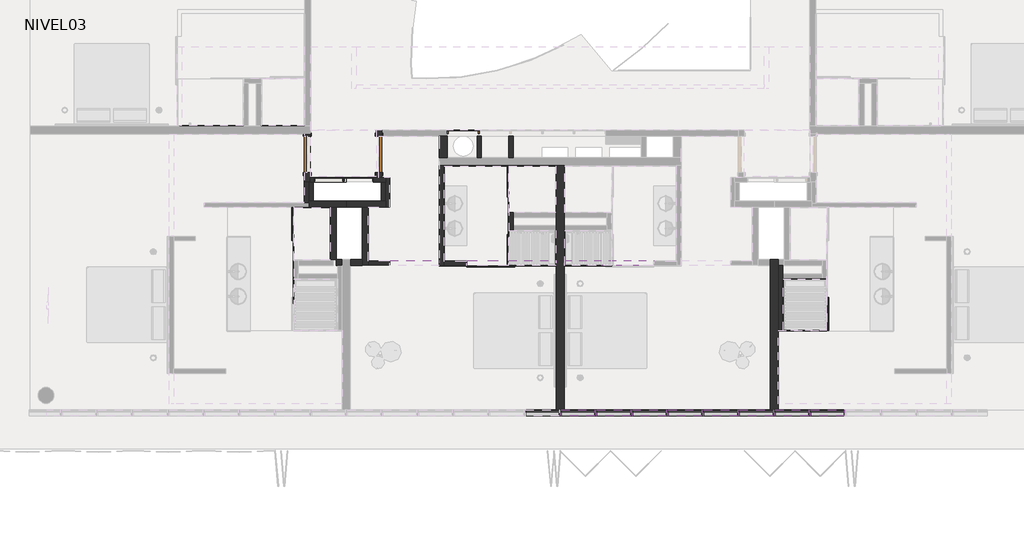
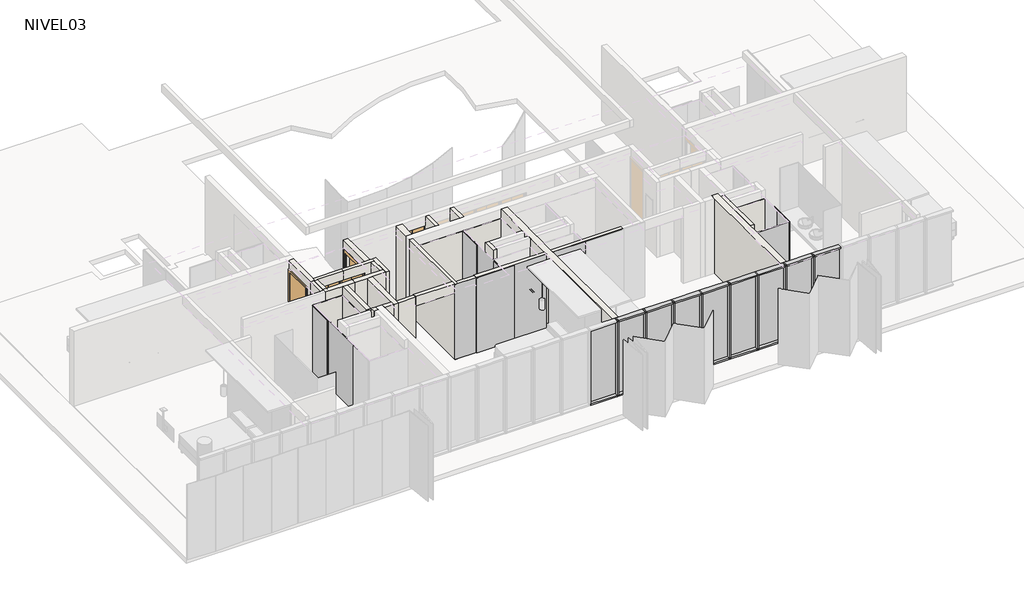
# One storey, part 2 of 8: 38 walls, 25 members, 20 plates, 5 doors.
"""IFC4 building model written with IfcOpenShell, lengths in millimetres."""

from ifc_helpers import new_model, si_unit, frame, origin, place, context, project, spatial, polyline, outline, extrude, faceted_brep, transform, mapped, element, save
from components import m_single_flush_910x_224_a4f79d59, m_single_flush_910x_224_d199ccfa, puerta_closet_shaft_75_x_232cm_9b8c6cb1, puerta_closet_shaft_75_x_232cm_f7ce9964, puerta_closet_shaft_80_x_232cm_003f94e8, rectangular_mullion_50_x_150mm_324a6438, rectangular_mullion_50_x_150mm_33c2bde1, panel_corredera_cr_panel_corredera_e449a94a, panel_corredera_cr_panel_corredera_4796692a, panel_corredera_cr_panel_corredera_42e60b83, panel_corredera_cr_panel_corredera_db6cee18, panel_corredera_cr_panel_corredera_0b5135b5, system_panel_cr_shower_b944c943, system_panel_cr_shower_306accba, system_panel_cr_shower_91ed7f58, system_panel_cr_shower_c062e60c, system_panel_cr_shower_685ec66b, system_panel_cr_shower_d0c7b907, system_panel_glazed_6ccc6dc1

model = new_model("IFC4")

# Units and contexts
model_context = context("Model", 3, world=origin())
ifc_project = project(units=[si_unit("LENGTHUNIT", "METRE", prefix="MILLI")], contexts=[model_context])

# Site, building, storey
site = spatial("IfcSite", under=ifc_project)
building = spatial("IfcBuilding", under=site)
storey = spatial("IfcBuildingStorey", under=building, Name="NIVEL03", Elevation=5220.0)

# Doors
placement = place(None, origin())
m_single_flush_910x_224_shape = m_single_flush_910x_224_a4f79d59(model_context)
element("IfcDoor", 1, ObjectType="M_Single-Flush : 910x 224", at=placement, inside=storey, context=model_context, shape_type="MappedRepresentation", body=[
    mapped(m_single_flush_910x_224_shape, transform((-13568.5934748, -883.5860759, 5220.0), x_axis=(0.0, 1.0, 0.0), y_axis=(-1.0, 0.0, 0.0), z_axis=(0.0, 0.0, 1.0))),
])
m_single_flush_910x_224_2_shape = m_single_flush_910x_224_d199ccfa(model_context)
element("IfcDoor", 2, ObjectType="M_Single-Flush : 910x 224", at=placement, inside=storey, context=model_context, shape_type="MappedRepresentation", body=[
    mapped(m_single_flush_910x_224_2_shape, transform((-11758.5934748, -883.5860759, 5220.0), x_axis=(0.0, 1.0, 0.0), y_axis=(-1.0, 0.0, 0.0), z_axis=(0.0, 0.0, 1.0))),
])
puerta_closet_shaft_75_x_232cm_shape = puerta_closet_shaft_75_x_232cm_9b8c6cb1(model_context)
element("IfcDoor", 3, ObjectType="PUERTA CLOSET SHAFT : 75 x 232cm", at=placement, inside=storey, context=model_context, shape_type="MappedRepresentation", body=[
    mapped(puerta_closet_shaft_75_x_232cm_shape, transform((-11887.061904, -1521.0860759, 5220.0), x_axis=(1.0, 0.0, 0.0), y_axis=(0.0, 1.0, 0.0), z_axis=(0.0, 0.0, 1.0))),
])
puerta_closet_shaft_75_x_232cm_2_shape = puerta_closet_shaft_75_x_232cm_f7ce9964(model_context)
element("IfcDoor", 4, ObjectType="PUERTA CLOSET SHAFT : 75 x 232cm", at=placement, inside=storey, context=model_context, shape_type="MappedRepresentation", body=[
    mapped(puerta_closet_shaft_75_x_232cm_2_shape, transform((-13420.1250457, -1521.0860759, 5220.0), x_axis=(-1.0, 0.0, 0.0), y_axis=(0.0, -1.0, 0.0), z_axis=(0.0, 0.0, 1.0))),
])
puerta_closet_shaft_80_x_232cm_shape = puerta_closet_shaft_80_x_232cm_003f94e8(model_context)
element("IfcDoor", 5, ObjectType="PUERTA CLOSET SHAFT : 80 x 232cm", at=placement, inside=storey, context=model_context, shape_type="MappedRepresentation", body=[
    mapped(puerta_closet_shaft_80_x_232cm_shape, transform((-8492.061904, -341.0860759, 5220.0), x_axis=(1.0, 0.0, 0.0), y_axis=(0.0, 1.0, 0.0), z_axis=(0.0, 0.0, 1.0))),
])

# Members
rectangular_mullion_50_x_150mm_shape = rectangular_mullion_50_x_150mm_324a6438(model_context)
element("IfcMember", 6, ObjectType="Rectangular Mullion : 50 x 150mm", at=placement, inside=storey, context=model_context, shape_type="MappedRepresentation", body=[
    mapped(rectangular_mullion_50_x_150mm_shape, transform((-858.5934748, -7416.0860759, 7770.0), x_axis=(0.0, 0.0, 1.0), y_axis=(0.0, 1.0, 0.0), z_axis=(-1.0, 0.0, 0.0))),
])
element("IfcMember", 7, ObjectType="Rectangular Mullion : 50 x 150mm", at=placement, inside=storey, context=model_context, shape_type="MappedRepresentation", body=[
    mapped(rectangular_mullion_50_x_150mm_shape, transform((-1758.5934748, -7416.0860759, 7770.0), x_axis=(0.0, 0.0, 1.0), y_axis=(0.0, 1.0, 0.0), z_axis=(-1.0, 0.0, 0.0))),
])
element("IfcMember", 8, ObjectType="Rectangular Mullion : 50 x 150mm", at=placement, inside=storey, context=model_context, shape_type="MappedRepresentation", body=[
    mapped(rectangular_mullion_50_x_150mm_shape, transform((-2658.5934748, -7416.0860759, 7770.0), x_axis=(0.0, 0.0, 1.0), y_axis=(0.0, 1.0, 0.0), z_axis=(-1.0, 0.0, 0.0))),
])
element("IfcMember", 9, ObjectType="Rectangular Mullion : 50 x 150mm", at=placement, inside=storey, context=model_context, shape_type="MappedRepresentation", body=[
    mapped(rectangular_mullion_50_x_150mm_shape, transform((-3558.5934748, -7416.0860759, 7770.0), x_axis=(0.0, 0.0, 1.0), y_axis=(0.0, 1.0, 0.0), z_axis=(-1.0, 0.0, 0.0))),
])
element("IfcMember", 10, ObjectType="Rectangular Mullion : 50 x 150mm", at=placement, inside=storey, context=model_context, shape_type="MappedRepresentation", body=[
    mapped(rectangular_mullion_50_x_150mm_shape, transform((-4458.5934748, -7416.0860759, 7770.0), x_axis=(0.0, 0.0, 1.0), y_axis=(0.0, 1.0, 0.0), z_axis=(-1.0, 0.0, 0.0))),
])
element("IfcMember", 11, ObjectType="Rectangular Mullion : 50 x 150mm", at=placement, inside=storey, context=model_context, shape_type="MappedRepresentation", body=[
    mapped(rectangular_mullion_50_x_150mm_shape, transform((-5358.5934748, -7416.0860759, 7770.0), x_axis=(0.0, 0.0, 1.0), y_axis=(0.0, 1.0, 0.0), z_axis=(-1.0, 0.0, 0.0))),
])
element("IfcMember", 12, ObjectType="Rectangular Mullion : 50 x 150mm", at=placement, inside=storey, context=model_context, shape_type="MappedRepresentation", body=[
    mapped(rectangular_mullion_50_x_150mm_shape, transform((-6258.5934748, -7416.0860759, 7770.0), x_axis=(0.0, 0.0, 1.0), y_axis=(0.0, 1.0, 0.0), z_axis=(-1.0, 0.0, 0.0))),
])
element("IfcMember", 13, ObjectType="Rectangular Mullion : 50 x 150mm", at=placement, inside=storey, context=model_context, shape_type="MappedRepresentation", body=[
    mapped(rectangular_mullion_50_x_150mm_shape, transform((-7158.5934748, -7416.0860759, 7770.0), x_axis=(0.0, 0.0, 1.0), y_axis=(0.0, 1.0, 0.0), z_axis=(-1.0, 0.0, 0.0))),
])
element("IfcMember", 14, ObjectType="Rectangular Mullion : 50 x 150mm", at=placement, inside=storey, context=model_context, shape_type="MappedRepresentation", body=[
    mapped(rectangular_mullion_50_x_150mm_shape, transform((-8.5934748, -7416.0860759, 5200.0), x_axis=(0.0, 0.0, -1.0), y_axis=(0.0, 1.0, 0.0), z_axis=(1.0, 0.0, 0.0))),
])
element("IfcMember", 15, ObjectType="Rectangular Mullion : 50 x 150mm", at=placement, inside=storey, context=model_context, shape_type="MappedRepresentation", body=[
    mapped(rectangular_mullion_50_x_150mm_shape, transform((-908.5934748, -7416.0860759, 5200.0), x_axis=(0.0, 0.0, -1.0), y_axis=(0.0, 1.0, 0.0), z_axis=(1.0, 0.0, 0.0))),
])
element("IfcMember", 16, ObjectType="Rectangular Mullion : 50 x 150mm", at=placement, inside=storey, context=model_context, shape_type="MappedRepresentation", body=[
    mapped(rectangular_mullion_50_x_150mm_shape, transform((-1808.5934748, -7416.0860759, 5200.0), x_axis=(0.0, 0.0, -1.0), y_axis=(0.0, 1.0, 0.0), z_axis=(1.0, 0.0, 0.0))),
])
element("IfcMember", 17, ObjectType="Rectangular Mullion : 50 x 150mm", at=placement, inside=storey, context=model_context, shape_type="MappedRepresentation", body=[
    mapped(rectangular_mullion_50_x_150mm_shape, transform((-2708.5934748, -7416.0860759, 5200.0), x_axis=(0.0, 0.0, -1.0), y_axis=(0.0, 1.0, 0.0), z_axis=(1.0, 0.0, 0.0))),
])
element("IfcMember", 18, ObjectType="Rectangular Mullion : 50 x 150mm", at=placement, inside=storey, context=model_context, shape_type="MappedRepresentation", body=[
    mapped(rectangular_mullion_50_x_150mm_shape, transform((-3608.5934748, -7416.0860759, 5200.0), x_axis=(0.0, 0.0, -1.0), y_axis=(0.0, 1.0, 0.0), z_axis=(1.0, 0.0, 0.0))),
])
element("IfcMember", 19, ObjectType="Rectangular Mullion : 50 x 150mm", at=placement, inside=storey, context=model_context, shape_type="MappedRepresentation", body=[
    mapped(rectangular_mullion_50_x_150mm_shape, transform((-4508.5934748, -7416.0860759, 5200.0), x_axis=(0.0, 0.0, -1.0), y_axis=(0.0, 1.0, 0.0), z_axis=(1.0, 0.0, 0.0))),
])
element("IfcMember", 20, ObjectType="Rectangular Mullion : 50 x 150mm", at=placement, inside=storey, context=model_context, shape_type="MappedRepresentation", body=[
    mapped(rectangular_mullion_50_x_150mm_shape, transform((-5408.5934748, -7416.0860759, 5200.0), x_axis=(0.0, 0.0, -1.0), y_axis=(0.0, 1.0, 0.0), z_axis=(1.0, 0.0, 0.0))),
])
element("IfcMember", 21, ObjectType="Rectangular Mullion : 50 x 150mm", at=placement, inside=storey, context=model_context, shape_type="MappedRepresentation", body=[
    mapped(rectangular_mullion_50_x_150mm_shape, transform((-6308.5934748, -7416.0860759, 5200.0), x_axis=(0.0, 0.0, -1.0), y_axis=(0.0, 1.0, 0.0), z_axis=(1.0, 0.0, 0.0))),
])
element("IfcMember", 22, ObjectType="Rectangular Mullion : 50 x 150mm", at=placement, inside=storey, context=model_context, shape_type="MappedRepresentation", body=[
    mapped(rectangular_mullion_50_x_150mm_shape, transform((-7208.5934748, -7416.0860759, 5200.0), x_axis=(0.0, 0.0, -1.0), y_axis=(0.0, 1.0, 0.0), z_axis=(1.0, 0.0, 0.0))),
])
rectangular_mullion_50_x_150mm_2_shape = rectangular_mullion_50_x_150mm_33c2bde1(model_context)
element("IfcMember", 23, ObjectType="Rectangular Mullion : 50 x 150mm", at=placement, inside=storey, context=model_context, shape_type="MappedRepresentation", body=[
    mapped(rectangular_mullion_50_x_150mm_2_shape, transform((-883.5934748, -7416.0860759, 5200.0), x_axis=(-1.0, 0.0, 0.0), y_axis=(0.0, 1.0, 0.0), z_axis=(0.0, 0.0, -1.0))),
])
element("IfcMember", 24, ObjectType="Rectangular Mullion : 50 x 150mm", at=placement, inside=storey, context=model_context, shape_type="MappedRepresentation", body=[
    mapped(rectangular_mullion_50_x_150mm_2_shape, transform((-1783.5934748, -7416.0860759, 5200.0), x_axis=(-1.0, 0.0, 0.0), y_axis=(0.0, 1.0, 0.0), z_axis=(0.0, 0.0, -1.0))),
])
element("IfcMember", 25, ObjectType="Rectangular Mullion : 50 x 150mm", at=placement, inside=storey, context=model_context, shape_type="MappedRepresentation", body=[
    mapped(rectangular_mullion_50_x_150mm_2_shape, transform((-2683.5934748, -7416.0860759, 5200.0), x_axis=(-1.0, 0.0, 0.0), y_axis=(0.0, 1.0, 0.0), z_axis=(0.0, 0.0, -1.0))),
])
element("IfcMember", 26, ObjectType="Rectangular Mullion : 50 x 150mm", at=placement, inside=storey, context=model_context, shape_type="MappedRepresentation", body=[
    mapped(rectangular_mullion_50_x_150mm_2_shape, transform((-3583.5934748, -7416.0860759, 5200.0), x_axis=(-1.0, 0.0, 0.0), y_axis=(0.0, 1.0, 0.0), z_axis=(0.0, 0.0, -1.0))),
])
element("IfcMember", 27, ObjectType="Rectangular Mullion : 50 x 150mm", at=placement, inside=storey, context=model_context, shape_type="MappedRepresentation", body=[
    mapped(rectangular_mullion_50_x_150mm_2_shape, transform((-4483.5934748, -7416.0860759, 5200.0), x_axis=(-1.0, 0.0, 0.0), y_axis=(0.0, 1.0, 0.0), z_axis=(0.0, 0.0, -1.0))),
])
element("IfcMember", 28, ObjectType="Rectangular Mullion : 50 x 150mm", at=placement, inside=storey, context=model_context, shape_type="MappedRepresentation", body=[
    mapped(rectangular_mullion_50_x_150mm_2_shape, transform((-5383.5934748, -7416.0860759, 5200.0), x_axis=(-1.0, 0.0, 0.0), y_axis=(0.0, 1.0, 0.0), z_axis=(0.0, 0.0, -1.0))),
])
element("IfcMember", 29, ObjectType="Rectangular Mullion : 50 x 150mm", at=placement, inside=storey, context=model_context, shape_type="MappedRepresentation", body=[
    mapped(rectangular_mullion_50_x_150mm_2_shape, transform((-6283.5934748, -7416.0860759, 5200.0), x_axis=(-1.0, 0.0, 0.0), y_axis=(0.0, 1.0, 0.0), z_axis=(0.0, 0.0, -1.0))),
])
element("IfcMember", 30, ObjectType="Rectangular Mullion : 50 x 150mm", at=placement, inside=storey, context=model_context, shape_type="MappedRepresentation", body=[
    mapped(rectangular_mullion_50_x_150mm_2_shape, transform((-7183.5934748, -7416.0860759, 5200.0), x_axis=(-1.0, 0.0, 0.0), y_axis=(0.0, 1.0, 0.0), z_axis=(0.0, 0.0, -1.0))),
])

# Plates
panel_corredera_cr_panel_corredera_shape = panel_corredera_cr_panel_corredera_e449a94a(model_context)
element("IfcPlate", 31, ObjectType="PANEL CORREDERA : CR_PANEL CORREDERA", at=placement, inside=storey, context=model_context, shape_type="MappedRepresentation", body=[
    mapped(panel_corredera_cr_panel_corredera_shape, transform((-13913.6434748, -2560.8259695, 5220.0), x_axis=(0.0, -1.0, 0.0), y_axis=(1.0, 0.0, 0.0), z_axis=(0.0, 0.0, 1.0))),
])
panel_corredera_cr_panel_corredera_2_shape = panel_corredera_cr_panel_corredera_4796692a(model_context)
element("IfcPlate", 32, ObjectType="PANEL CORREDERA : CR_PANEL CORREDERA", at=placement, inside=storey, context=model_context, shape_type="MappedRepresentation", body=[
    mapped(panel_corredera_cr_panel_corredera_2_shape, transform((-8483.5947993, -3371.0862189, 5220.0), x_axis=(0.0, 1.0, 0.0), y_axis=(-1.0, 0.0, 0.0), z_axis=(0.0, 0.0, 1.0))),
])
panel_corredera_cr_panel_corredera_3_shape = panel_corredera_cr_panel_corredera_42e60b83(model_context)
element("IfcPlate", 33, ObjectType="PANEL CORREDERA : CR_PANEL CORREDERA", at=placement, inside=storey, context=model_context, shape_type="MappedRepresentation", body=[
    mapped(panel_corredera_cr_panel_corredera_3_shape, transform((-453.5434748, -4991.5697221, 5220.0), x_axis=(0.0, 1.0, 0.0), y_axis=(-1.0, 0.0, 0.0), z_axis=(0.0, 0.0, 1.0))),
])
panel_corredera_cr_panel_corredera_4_shape = panel_corredera_cr_panel_corredera_db6cee18(model_context)
element("IfcPlate", 34, ObjectType="PANEL CORREDERA : CR_PANEL CORREDERA", at=placement, inside=storey, context=model_context, shape_type="MappedRepresentation", body=[
    mapped(panel_corredera_cr_panel_corredera_4_shape, transform((-8483.5947993, -1491.0860759, 5220.0), x_axis=(0.0, -1.0, 0.0), y_axis=(1.0, 0.0, 0.0), z_axis=(0.0, 0.0, 1.0))),
])
panel_corredera_cr_panel_corredera_5_shape = panel_corredera_cr_panel_corredera_0b5135b5(model_context)
element("IfcPlate", 35, ObjectType="PANEL CORREDERA : CR_PANEL CORREDERA", at=placement, inside=storey, context=model_context, shape_type="MappedRepresentation", body=[
    mapped(panel_corredera_cr_panel_corredera_5_shape, transform((-9013.5934748, -3686.0862189, 5220.0), x_axis=(1.0, 0.0, 0.0), y_axis=(0.0, 1.0, 0.0), z_axis=(0.0, 0.0, 1.0))),
])
system_panel_cr_shower_shape = system_panel_cr_shower_b944c943(model_context)
element("IfcPlate", 36, ObjectType="System Panel : CR-SHOWER", at=placement, inside=storey, context=model_context, shape_type="MappedRepresentation", body=[
    mapped(system_panel_cr_shower_shape, transform((-1068.5684748, -5336.1362189, 5220.0), x_axis=(1.0, 0.0, 0.0), y_axis=(0.0, 1.0, 0.0), z_axis=(0.0, 0.0, 1.0))),
])
system_panel_cr_shower_2_shape = system_panel_cr_shower_306accba(model_context)
element("IfcPlate", 37, ObjectType="System Panel : CR-SHOWER", at=placement, inside=storey, context=model_context, shape_type="MappedRepresentation", body=[
    mapped(system_panel_cr_shower_2_shape, transform((-9888.5934748, -3686.0862189, 5220.0), x_axis=(-1.0, 0.0, 0.0), y_axis=(0.0, -1.0, 0.0), z_axis=(0.0, 0.0, 1.0))),
])
system_panel_cr_shower_3_shape = system_panel_cr_shower_91ed7f58(model_context)
element("IfcPlate", 38, ObjectType="System Panel : CR-SHOWER", at=placement, inside=storey, context=model_context, shape_type="MappedRepresentation", body=[
    mapped(system_panel_cr_shower_3_shape, transform((-13913.6434748, -3776.2845441, 5220.0), x_axis=(0.0, 1.0, 0.0), y_axis=(-1.0, 0.0, 0.0), z_axis=(0.0, 0.0, 1.0))),
])
system_panel_cr_shower_4_shape = system_panel_cr_shower_c062e60c(model_context)
element("IfcPlate", 39, ObjectType="System Panel : CR-SHOWER", at=placement, inside=storey, context=model_context, shape_type="MappedRepresentation", body=[
    mapped(system_panel_cr_shower_4_shape, transform((-8483.5947993, -2436.0861474, 5220.0), x_axis=(0.0, 1.0, 0.0), y_axis=(-1.0, 0.0, 0.0), z_axis=(0.0, 0.0, 1.0))),
])
system_panel_cr_shower_5_shape = system_panel_cr_shower_685ec66b(model_context)
element("IfcPlate", 40, ObjectType="System Panel : CR-SHOWER", at=placement, inside=storey, context=model_context, shape_type="MappedRepresentation", body=[
    mapped(system_panel_cr_shower_5_shape, transform((-6483.5934748, -3686.0862189, 5220.0), x_axis=(1.0, 0.0, 0.0), y_axis=(0.0, 1.0, 0.0), z_axis=(0.0, 0.0, 1.0))),
])
system_panel_cr_shower_6_shape = system_panel_cr_shower_d0c7b907(model_context)
element("IfcPlate", 41, ObjectType="System Panel : CR-SHOWER", at=placement, inside=storey, context=model_context, shape_type="MappedRepresentation", body=[
    mapped(system_panel_cr_shower_6_shape, transform((-7883.5934748, -3686.0862189, 5220.0), x_axis=(-1.0, 0.0, 0.0), y_axis=(0.0, -1.0, 0.0), z_axis=(0.0, 0.0, 1.0))),
])
system_panel_glazed_shape = system_panel_glazed_6ccc6dc1(model_context)
element("IfcPlate", 42, ObjectType="System Panel : Glazed", at=placement, inside=storey, context=model_context, shape_type="MappedRepresentation", body=[
    mapped(system_panel_glazed_shape, transform((-433.5934748, -7416.0860759, 5250.0), x_axis=(-1.0, 0.0, 0.0), y_axis=(0.0, -1.0, 0.0), z_axis=(0.0, 0.0, 1.0))),
])
element("IfcPlate", 43, ObjectType="System Panel : Glazed", at=placement, inside=storey, context=model_context, shape_type="MappedRepresentation", body=[
    mapped(system_panel_glazed_shape, transform((-1333.5934748, -7416.0860759, 5250.0), x_axis=(-1.0, 0.0, 0.0), y_axis=(0.0, -1.0, 0.0), z_axis=(0.0, 0.0, 1.0))),
])
element("IfcPlate", 44, ObjectType="System Panel : Glazed", at=placement, inside=storey, context=model_context, shape_type="MappedRepresentation", body=[
    mapped(system_panel_glazed_shape, transform((-2233.5934748, -7416.0860759, 5250.0), x_axis=(-1.0, 0.0, 0.0), y_axis=(0.0, -1.0, 0.0), z_axis=(0.0, 0.0, 1.0))),
])
element("IfcPlate", 45, ObjectType="System Panel : Glazed", at=placement, inside=storey, context=model_context, shape_type="MappedRepresentation", body=[
    mapped(system_panel_glazed_shape, transform((-3133.5934748, -7416.0860759, 5250.0), x_axis=(-1.0, 0.0, 0.0), y_axis=(0.0, -1.0, 0.0), z_axis=(0.0, 0.0, 1.0))),
])
element("IfcPlate", 46, ObjectType="System Panel : Glazed", at=placement, inside=storey, context=model_context, shape_type="MappedRepresentation", body=[
    mapped(system_panel_glazed_shape, transform((-4033.5934748, -7416.0860759, 5250.0), x_axis=(-1.0, 0.0, 0.0), y_axis=(0.0, -1.0, 0.0), z_axis=(0.0, 0.0, 1.0))),
])
element("IfcPlate", 47, ObjectType="System Panel : Glazed", at=placement, inside=storey, context=model_context, shape_type="MappedRepresentation", body=[
    mapped(system_panel_glazed_shape, transform((-4933.5934748, -7416.0860759, 5250.0), x_axis=(-1.0, 0.0, 0.0), y_axis=(0.0, -1.0, 0.0), z_axis=(0.0, 0.0, 1.0))),
])
element("IfcPlate", 48, ObjectType="System Panel : Glazed", at=placement, inside=storey, context=model_context, shape_type="MappedRepresentation", body=[
    mapped(system_panel_glazed_shape, transform((-5833.5934748, -7416.0860759, 5250.0), x_axis=(-1.0, 0.0, 0.0), y_axis=(0.0, -1.0, 0.0), z_axis=(0.0, 0.0, 1.0))),
])
element("IfcPlate", 49, ObjectType="System Panel : Glazed", at=placement, inside=storey, context=model_context, shape_type="MappedRepresentation", body=[
    mapped(system_panel_glazed_shape, transform((-6733.5934748, -7416.0860759, 5250.0), x_axis=(-1.0, 0.0, 0.0), y_axis=(0.0, -1.0, 0.0), z_axis=(0.0, 0.0, 1.0))),
])
element("IfcPlate", 50, ObjectType="System Panel : Glazed", at=placement, inside=storey, context=model_context, shape_type="MappedRepresentation", body=[
    mapped(system_panel_glazed_shape, transform((-7633.5934748, -7416.0860759, 5250.0), x_axis=(-1.0, 0.0, 0.0), y_axis=(0.0, -1.0, 0.0), z_axis=(0.0, 0.0, 1.0))),
])

# Walls
element("IfcWall", 51, ObjectType="SCV.TI.A.110.090.143.47.1", at=placement, inside=storey, context=model_context, shape_type="SweptSolid", body=[
    extrude(outline(polyline([(-9283.5934748, -966.0860759), (-9283.5934748, -416.0860759), (-9173.5934748, -416.0860759), (-9173.5934748, -966.0860759), (-9283.5934748, -966.0860759)])), frame((0.0, 0.0, 5200.0), z_axis=(0.0, 0.0, 1.0), x_axis=(1.0, 0.0, 0.0)), (0.0, 0.0, 1.0), 2570.0),
])
element("IfcWall", 52, ObjectType="REV-PORCELANATO_60*60", at=placement, inside=storey, context=model_context, shape_type="SweptSolid", body=[
    extrude(outline(polyline([(-7083.5934748, -3686.0862189), (-7083.5934748, -2806.0860759), (-7073.5934748, -2806.0860759), (-7073.5934748, -3686.0862189), (-7083.5934748, -3686.0862189)])), frame((0.0, 0.0, 5220.0), z_axis=(0.0, 0.0, 1.0), x_axis=(1.0, 0.0, 0.0)), (0.0, 0.0, 1.0), 2240.0),
])
element("IfcWall", 53, ObjectType="SCV.TI.A.110.090.143.47.1", at=placement, inside=storey, context=model_context, shape_type="SweptSolid", body=[
    extrude(outline(polyline([(-12033.5934748, -3571.0862189), (-11483.5934748, -3571.0862189), (-11483.5934748, -3681.0862189), (-12033.5934748, -3681.0862189), (-12033.5934748, -3571.0862189)])), frame((0.0, 0.0, 5220.0), z_axis=(0.0, 0.0, 1.0), x_axis=(1.0, 0.0, 0.0)), (0.0, 0.0, 1.0), 2550.0),
])
element("IfcWall", 54, ObjectType="SCV.TI.A.110.090.143.47.1", at=placement, inside=storey, context=model_context, shape_type="Brep", body=[
    faceted_brep([(-12589.1569667, -1466.0860759, 7770.0), (-11833.5934748, -1466.0860759, 7770.0), (-11683.5934748, -1466.0860759, 7770.0), (-11593.5934748, -1466.0860759, 7770.0), (-11593.5934748, -1466.0860759, 5220.0), (-11683.5934748, -1466.0860759, 5220.0), (-11833.5934748, -1466.0860759, 5220.0), (-11903.5934748, -1466.0860759, 5220.0), (-11903.5934748, -1466.0860759, 7460.0), (-12589.1569667, -1466.0860759, 7460.0), (-11593.5934748, -1576.0860759, 7770.0), (-11703.5934748, -1576.0860759, 7770.0), (-12589.1569667, -1576.0860759, 7770.0), (-12589.1569667, -1576.0860759, 7460.0), (-11903.5934748, -1576.0860759, 7460.0), (-11903.5934748, -1576.0860759, 5220.0), (-11593.5934748, -1576.0860759, 5220.0)], [[[0, 1, 2, 3, 4, 5, 6, 7, 8, 9]], [[10, 11, 12, 13, 14, 15, 16]], [[4, 16, 15, 7, 6, 5]], [[12, 0, 9, 13]], [[3, 2, 1, 0, 12, 11, 10]], [[8, 14, 13, 9]], [[14, 8, 7, 15]], [[4, 3, 10, 16]]]),
])
element("IfcWall", 55, ObjectType="SCV.TI.A.150.120.212.47.1", at=placement, inside=storey, context=model_context, shape_type="Brep", body=[
    faceted_brep([(-11833.5934748, -1466.0860759, 7770.0), (-11833.5934748, -266.0860759, 7770.0), (-11833.5934748, -266.0860759, 5220.0), (-11833.5934748, -426.0860759, 5220.0), (-11833.5934748, -426.0860759, 7420.0), (-11833.5934748, -1341.0860759, 7420.0), (-11833.5934748, -1341.0860759, 5220.0), (-11833.5934748, -1466.0860759, 5220.0), (-11683.5934748, -266.0860759, 7770.0), (-11683.5934748, -416.0860759, 7770.0), (-11683.5934748, -1466.0860759, 7770.0), (-11683.5934748, -1466.0860759, 5220.0), (-11683.5934748, -1341.0860759, 5220.0), (-11683.5934748, -1341.0860759, 7420.0), (-11683.5934748, -426.0860759, 7420.0), (-11683.5934748, -426.0860759, 5220.0), (-11683.5934748, -266.0860759, 5220.0)], [[[0, 1, 2, 3, 4, 5, 6, 7]], [[8, 9, 10, 11, 12, 13, 14, 15, 16]], [[2, 16, 15, 3]], [[11, 7, 6, 12]], [[1, 0, 10, 9, 8]], [[4, 14, 13, 5]], [[5, 13, 12, 6]], [[14, 4, 3, 15]], [[2, 1, 8, 16]], [[0, 7, 11, 10]]]),
])
element("IfcWall", 56, ObjectType="SCV.TI.A.110.090.143.47.1", at=placement, inside=storey, context=model_context, shape_type="Brep", body=[
    faceted_brep([(-10233.5934748, -1166.0860759, 5200.0), (-10233.5934748, -3686.0862189, 5200.0), (-10233.5934748, -3686.0862189, 7470.0), (-10233.5934748, -3686.0862189, 7770.0), (-10233.5934748, -1166.0860759, 7770.0), (-10123.5934748, -1166.0860759, 5200.0), (-10123.5934748, -1166.0860759, 7770.0), (-10123.5934748, -3576.0862189, 7770.0), (-10123.5934748, -3686.0862189, 7770.0), (-10123.5934748, -3686.0862189, 5220.0), (-10123.5934748, -3686.0862189, 5200.0)], [[[0, 1, 2, 3, 4]], [[5, 6, 7, 8, 9, 10]], [[1, 0, 5, 10]], [[4, 3, 8, 7, 6]], [[0, 4, 6, 5]], [[1, 10, 9, 8, 3, 2]]]),
])
element("IfcWall", 57, ObjectType="SCV.TI.A.150.120.212.47.1", at=placement, inside=storey, context=model_context, shape_type="Brep", body=[
    faceted_brep([(-11593.5934748, -2066.0860759, 5220.0), (-12583.5934748, -2066.0860759, 5220.0), (-12583.5934748, -2066.0860759, 7770.0), (-11593.5934748, -2066.0860759, 7770.0), (-11593.5934748, -2216.0860759, 5220.0), (-11593.5934748, -2216.0860759, 7770.0), (-12033.5934748, -2216.0860759, 7770.0), (-12183.5934748, -2216.0860759, 7770.0), (-12583.5934748, -2216.0860759, 7770.0), (-12583.5934748, -2216.0860759, 5220.0), (-12183.5934748, -2216.0860759, 5220.0), (-12033.5934748, -2216.0860759, 5220.0)], [[[0, 1, 2, 3]], [[4, 5, 6, 7, 8, 9, 10, 11]], [[1, 0, 4, 11, 10, 9]], [[2, 1, 9, 8]], [[3, 2, 8, 7, 6, 5]], [[0, 3, 5, 4]]]),
])
element("IfcWall", 58, ObjectType="SCV.TI.A.110.090.143.47.1", at=placement, inside=storey, context=model_context, shape_type="Brep", body=[
    faceted_brep([(-11593.5934748, -1466.0860759, 5200.0), (-11593.5934748, -2216.0860759, 5200.0), (-11593.5934748, -2216.0860759, 5220.0), (-11593.5934748, -2216.0860759, 7770.0), (-11593.5934748, -2066.0860759, 7770.0), (-11593.5934748, -1576.0860759, 7770.0), (-11593.5934748, -1466.0860759, 7770.0), (-11593.5934748, -1466.0860759, 5220.0), (-11483.5934748, -1466.0860759, 5200.0), (-11483.5934748, -1466.0860759, 7770.0), (-11483.5934748, -2216.0860759, 7770.0), (-11483.5934748, -2216.0860759, 5200.0)], [[[0, 1, 2, 3, 4, 5, 6, 7]], [[8, 9, 10, 11]], [[1, 0, 8, 11]], [[6, 5, 4, 3, 10, 9]], [[3, 2, 1, 11, 10]], [[0, 7, 6, 9, 8]]]),
])
element("IfcWall", 59, ObjectType="SCV.TI.A.120.120.122.46.2", at=placement, inside=storey, context=model_context, shape_type="Brep", body=[
    faceted_brep([(-8363.5047394, -2796.0860759, 5220.0), (-8363.5047394, -2676.0860759, 5220.0), (-8363.5047394, -2476.0860759, 5220.0), (-8363.5047394, -2356.0860759, 5220.0), (-8363.5047394, -2356.0860759, 7770.0), (-8363.5047394, -2476.0860759, 7770.0), (-8363.5047394, -2676.0860759, 7770.0), (-8363.5047394, -2796.0860759, 7770.0), (-8483.5047394, -2796.0860759, 5220.0), (-8483.5047394, -2796.0860759, 7770.0), (-8483.5047394, -2356.0860759, 7770.0), (-8483.5047394, -2356.0860759, 5220.0)], [[[0, 1, 2, 3, 4, 5, 6, 7]], [[8, 9, 10, 11]], [[3, 2, 1, 0, 8, 11]], [[7, 6, 5, 4, 10, 9]], [[4, 3, 11, 10]], [[0, 7, 9, 8]]]),
])
element("IfcWall", 60, ObjectType="SCV.TI.A.110.090.143.47.1", at=placement, inside=storey, context=model_context, shape_type="Brep", body=[
    faceted_brep([(-9543.5934748, -3576.0862189, 5220.0), (-10123.5934748, -3576.0862189, 5220.0), (-10123.5934748, -3576.0862189, 7770.0), (-9543.5934748, -3576.0862189, 7770.0), (-9543.5934748, -3686.0862189, 5220.0), (-9543.5934748, -3686.0862189, 7470.0), (-9543.5934748, -3686.0862189, 7770.0), (-10123.5934748, -3686.0862189, 7770.0), (-10123.5934748, -3686.0862189, 5220.0)], [[[0, 1, 2, 3]], [[4, 5, 6, 7, 8]], [[1, 0, 4, 8]], [[3, 2, 7, 6]], [[0, 3, 6, 5, 4]], [[1, 8, 7, 2]]]),
])
element("IfcWall", 61, ObjectType="REV-PORCELANATO_60*60", at=placement, inside=storey, context=model_context, shape_type="Brep", body=[
    faceted_brep([(-9543.5934748, -3586.0862189, 5220.0), (-10113.5934748, -3586.0862189, 5220.0), (-10123.5934748, -3586.0862189, 5220.0), (-10123.5934748, -3586.0862189, 7460.0), (-10113.5934748, -3586.0862189, 7460.0), (-9543.5934748, -3586.0862189, 7460.0), (-9543.5934748, -3596.0862189, 5220.0), (-9543.5934748, -3596.0862189, 7460.0), (-10123.5934748, -3596.0862189, 7460.0), (-10123.5934748, -3596.0862189, 5220.0)], [[[0, 1, 2, 3, 4, 5]], [[6, 7, 8, 9]], [[2, 1, 0, 6, 9]], [[5, 4, 3, 8, 7]], [[0, 5, 7, 6]], [[3, 2, 9, 8]]]),
])
element("IfcWall", 62, ObjectType="REV-PORCELANATO_60*60", at=placement, inside=storey, context=model_context, shape_type="Brep", body=[
    faceted_brep([(-10113.5934748, -3586.0862189, 5220.0), (-10113.5934748, -1176.0860759, 5220.0), (-10113.5934748, -1166.0860759, 5220.0), (-10113.5934748, -1166.0860759, 7460.0), (-10113.5934748, -1176.0860759, 7460.0), (-10113.5934748, -3586.0862189, 7460.0), (-10123.5934748, -3586.0862189, 5220.0), (-10123.5934748, -3586.0862189, 7460.0), (-10123.5934748, -1166.0860759, 7460.0), (-10123.5934748, -1166.0860759, 5220.0)], [[[0, 1, 2, 3, 4, 5]], [[6, 7, 8, 9]], [[2, 1, 0, 6, 9]], [[5, 4, 3, 8, 7]], [[3, 2, 9, 8]], [[0, 5, 7, 6]]]),
])
element("IfcWall", 63, ObjectType="REV-PORCELANATO_60*60", at=placement, inside=storey, context=model_context, shape_type="Brep", body=[
    faceted_brep([(-10113.5934748, -1176.0860759, 5220.0), (-7293.5934748, -1176.0860759, 5220.0), (-7283.5934748, -1176.0860759, 5220.0), (-7283.5934748, -1176.0860759, 7460.0), (-7293.5934748, -1176.0860759, 7460.0), (-10113.5934748, -1176.0860759, 7460.0), (-10113.5934748, -1166.0860759, 5220.0), (-10113.5934748, -1166.0860759, 7460.0), (-7283.5934748, -1166.0860759, 7460.0), (-7283.5934748, -1166.0860759, 5220.0)], [[[0, 1, 2, 3, 4, 5]], [[6, 7, 8, 9]], [[2, 1, 0, 6, 9]], [[5, 4, 3, 8, 7]], [[3, 2, 9, 8]], [[0, 5, 7, 6]]]),
])
element("IfcWall", 64, ObjectType="REV-PORCELANATO_60*60", at=placement, inside=storey, context=model_context, shape_type="SweptSolid", body=[
    extrude(outline(polyline([(-7293.5934748, -3686.0862189), (-7293.5934748, -2806.0860759), (-7283.5934748, -2806.0860759), (-7283.5934748, -3686.0862189), (-7293.5934748, -3686.0862189)])), frame((0.0, 0.0, 5220.0), z_axis=(0.0, 0.0, 1.0), x_axis=(1.0, 0.0, 0.0)), (0.0, 0.0, 1.0), 2240.0),
])
element("IfcWall", 65, ObjectType="SCV.TI.A.110.090.143.47.1", at=placement, inside=storey, context=model_context, shape_type="Brep", body=[
    faceted_brep([(-13493.5934748, -1576.0860759, 5200.0), (-13423.5934748, -1576.0860759, 5200.0), (-12589.1569667, -1576.0860759, 5200.0), (-12589.1569667, -1576.0860759, 5220.0), (-13403.5934748, -1576.0860759, 5220.0), (-13403.5934748, -1576.0860759, 7460.0), (-12589.1569667, -1576.0860759, 7460.0), (-12589.1569667, -1576.0860759, 7770.0), (-13423.5934748, -1576.0860759, 7770.0), (-13493.5934748, -1576.0860759, 7770.0), (-12589.1569667, -1466.0860759, 5200.0), (-13493.5934748, -1466.0860759, 5200.0), (-13493.5934748, -1466.0860759, 7770.0), (-12589.1569667, -1466.0860759, 7770.0), (-12589.1569667, -1466.0860759, 7460.0), (-13403.5934748, -1466.0860759, 7460.0), (-13403.5934748, -1466.0860759, 5220.0), (-12589.1569667, -1466.0860759, 5220.0)], [[[0, 1, 2, 3, 4, 5, 6, 7, 8, 9]], [[10, 11, 12, 13, 14, 15, 16, 17]], [[2, 1, 0, 11, 10]], [[2, 10, 17, 3]], [[13, 7, 6, 14]], [[9, 8, 7, 13, 12]], [[5, 15, 14, 6]], [[16, 4, 3, 17]], [[4, 16, 15, 5]], [[0, 9, 12, 11]]]),
])
element("IfcWall", 66, ObjectType="SCV.TI.A.150.120.212.47.1", at=placement, inside=storey, context=model_context, shape_type="Brep", body=[
    faceted_brep([(-13643.5934748, -366.0860759, 5200.0), (-13643.5934748, -1576.0860759, 5200.0), (-13643.5934748, -1576.0860759, 7770.0), (-13643.5934748, -366.0860759, 7770.0), (-13643.5934748, -1341.0860759, 5220.0), (-13643.5934748, -426.0860759, 5220.0), (-13643.5934748, -426.0860759, 7420.0), (-13643.5934748, -1341.0860759, 7420.0), (-13493.5934748, -1576.0860759, 5200.0), (-13493.5934748, -1466.0860759, 5200.0), (-13493.5934748, -366.0860759, 5200.0), (-13493.5934748, -366.0860759, 7770.0), (-13493.5934748, -1466.0860759, 7770.0), (-13493.5934748, -1576.0860759, 7770.0), (-13493.5934748, -426.0860759, 5220.0), (-13493.5934748, -1341.0860759, 5220.0), (-13493.5934748, -1341.0860759, 7420.0), (-13493.5934748, -426.0860759, 7420.0), (-13533.5934748, -1576.0860759, 5200.0), (-13533.5934748, -1576.0860759, 7770.0)], [[[0, 1, 2, 3], [4, 5, 6, 7]], [[8, 9, 10, 11, 12, 13], [14, 15, 16, 17]], [[1, 0, 10, 9, 8, 18]], [[3, 2, 19, 13, 12, 11]], [[4, 15, 14, 5]], [[6, 17, 16, 7]], [[15, 4, 7, 16]], [[17, 6, 5, 14]], [[2, 1, 18, 8, 13, 19]], [[0, 3, 11, 10]]]),
])
element("IfcWall", 67, ObjectType="SCV.TI.A.150.120.212.47.1", at=placement, inside=storey, context=model_context, shape_type="Brep", body=[
    faceted_brep([(-13533.5934748, -2216.0860759, 5200.0), (-12983.5934748, -2216.0860759, 5200.0), (-12833.5934748, -2216.0860759, 5200.0), (-12583.5934748, -2216.0860759, 5200.0), (-12583.5934748, -2216.0860759, 7770.0), (-12833.5934748, -2216.0860759, 7770.0), (-12983.5934748, -2216.0860759, 7770.0), (-13533.5934748, -2216.0860759, 7770.0), (-13533.5934748, -2066.0860759, 5200.0), (-13533.5934748, -2066.0860759, 7770.0), (-12583.5934748, -2066.0860759, 7770.0), (-12583.5934748, -2066.0860759, 5200.0), (-13533.5934748, -2106.0860759, 5200.0), (-13533.5934748, -2106.0860759, 7770.0)], [[[0, 1, 2, 3, 4, 5, 6, 7]], [[8, 9, 10, 11]], [[3, 2, 1, 0, 12, 8, 11]], [[4, 3, 11, 10]], [[7, 6, 5, 4, 10, 9, 13]], [[0, 7, 13, 9, 8, 12]]]),
])
element("IfcWall", 68, ObjectType="REV-PORCELANATO_60*60", at=placement, inside=storey, context=model_context, shape_type="Brep", body=[
    faceted_brep([(-1553.5934748, -5336.1362189, 5220.0), (-1553.5934748, -4036.0862189, 5220.0), (-1553.5934748, -4026.0862189, 5220.0), (-1553.5934748, -4026.0862189, 7480.0), (-1553.5934748, -4036.0862189, 7480.0), (-1553.5934748, -5336.1362189, 7480.0), (-1563.5934748, -5336.1362189, 5220.0), (-1563.5934748, -5336.1362189, 7480.0), (-1563.5934748, -4026.0862189, 7480.0), (-1563.5934748, -4026.0862189, 5220.0)], [[[0, 1, 2, 3, 4, 5]], [[6, 7, 8, 9]], [[2, 1, 0, 6, 9]], [[5, 4, 3, 8, 7]], [[0, 5, 7, 6]], [[3, 2, 9, 8]]]),
])
element("IfcWall", 69, ObjectType="REV-PORCELANATO_60*60", at=placement, inside=storey, context=model_context, shape_type="SweptSolid", body=[
    extrude(outline(polyline([(-453.5434748, -4036.0862189), (-1553.5934748, -4036.0862189), (-1553.5934748, -4026.0862189), (-453.5434748, -4026.0862189), (-453.5434748, -4036.0862189)])), frame((0.0, 0.0, 5220.0), z_axis=(0.0, 0.0, 1.0), x_axis=(1.0, 0.0, 0.0)), (0.0, 0.0, 1.0), 2260.0),
])
element("IfcWall", 70, ObjectType="REV-PORCELANATO_60*60", at=placement, inside=storey, context=model_context, shape_type="SweptSolid", body=[
    extrude(outline(polyline([(-13913.6434748, -2216.0860759), (-12993.5934748, -2216.0860759), (-12993.5934748, -2226.0860759), (-13913.6434748, -2226.0860759), (-13913.6434748, -2216.0860759)])), frame((0.0, 0.0, 5220.0), z_axis=(0.0, 0.0, 1.0), x_axis=(1.0, 0.0, 0.0)), (0.0, 0.0, 1.0), 2260.0),
])
element("IfcWall", 71, ObjectType="REV-PORCELANATO_60*60", at=placement, inside=storey, context=model_context, shape_type="Brep", body=[
    faceted_brep([(-12983.5934748, -3556.0862189, 5220.0), (-12983.5934748, -2216.0860759, 5220.0), (-12983.5934748, -2216.0860759, 7480.0), (-12983.5934748, -3556.0862189, 7480.0), (-12993.5934748, -3556.0862189, 5220.0), (-12993.5934748, -3556.0862189, 7480.0), (-12993.5934748, -2226.0860759, 7480.0), (-12993.5934748, -2216.0860759, 7480.0), (-12993.5934748, -2216.0860759, 5220.0), (-12993.5934748, -2226.0860759, 5220.0)], [[[0, 1, 2, 3]], [[4, 5, 6, 7, 8, 9]], [[1, 0, 4, 9, 8]], [[3, 2, 7, 6, 5]], [[2, 1, 8, 7]], [[0, 3, 5, 4]]]),
])
element("IfcWall", 72, ObjectType="SCV.TI.A.110.090.143.47.1", at=placement, inside=storey, context=model_context, shape_type="Brep", body=[
    faceted_brep([(-11703.5934748, -1576.0860759, 5200.0), (-11703.5934748, -2066.0860759, 5200.0), (-11703.5934748, -2066.0860759, 7770.0), (-11703.5934748, -1576.0860759, 7770.0), (-11593.5934748, -1576.0860759, 5200.0), (-11593.5934748, -1576.0860759, 5220.0), (-11593.5934748, -1576.0860759, 7770.0), (-11593.5934748, -2066.0860759, 7770.0), (-11593.5934748, -2066.0860759, 5200.0)], [[[0, 1, 2, 3]], [[4, 5, 6, 7, 8]], [[1, 0, 4, 8]], [[2, 1, 8, 7]], [[3, 2, 7, 6]], [[0, 3, 6, 5, 4]]]),
])
element("IfcWall", 73, ObjectType="SCV.TI.A.110.090.143.47.1", at=placement, inside=storey, context=model_context, shape_type="Brep", body=[
    faceted_brep([(-13643.5934748, -1576.0860759, 5200.0), (-13643.5934748, -2106.0860759, 5200.0), (-13643.5934748, -2106.0860759, 7770.0), (-13643.5934748, -1576.0860759, 7770.0), (-13533.5934748, -1576.0860759, 5200.0), (-13533.5934748, -1576.0860759, 7770.0), (-13533.5934748, -2066.0860759, 7770.0), (-13533.5934748, -2106.0860759, 7770.0), (-13533.5934748, -2106.0860759, 5200.0), (-13533.5934748, -2066.0860759, 5200.0)], [[[0, 1, 2, 3]], [[4, 5, 6, 7, 8, 9]], [[1, 0, 4, 9, 8]], [[3, 2, 7, 6, 5]], [[0, 3, 5, 4]], [[2, 1, 8, 7]]]),
])
element("IfcWall", 74, ObjectType="SCV.TI.A.110.090.143.47.1", at=placement, inside=storey, context=model_context, shape_type="Brep", body=[
    faceted_brep([(-13533.5934748, -1576.0860759, 5200.0), (-13533.5934748, -2113.0860759, 5200.0), (-13533.5934748, -2113.0860759, 7770.0), (-13533.5934748, -1576.0860759, 7770.0), (-13423.5934748, -1576.0860759, 5200.0), (-13423.5934748, -1576.0860759, 7770.0), (-13423.5934748, -2113.0860759, 7770.0), (-13423.5934748, -2113.0860759, 5200.0), (-13493.5934748, -1576.0860759, 5200.0), (-13493.5934748, -1576.0860759, 7770.0)], [[[0, 1, 2, 3]], [[4, 5, 6, 7]], [[1, 0, 8, 4, 7]], [[2, 1, 7, 6]], [[3, 2, 6, 5, 9]], [[0, 3, 9, 5, 4, 8]]]),
])
element("IfcWall", 75, ObjectType="SCV.TI.A.110.090.143.47.1", at=placement, inside=storey, context=model_context, shape_type="SweptSolid", body=[
    extrude(outline(polyline([(-8483.5934748, -966.0860759), (-8483.5934748, -416.0860759), (-8373.5934748, -416.0860759), (-8373.5934748, -966.0860759), (-8483.5934748, -966.0860759)])), frame((0.0, 0.0, 5200.0), z_axis=(0.0, 0.0, 1.0), x_axis=(1.0, 0.0, 0.0)), (0.0, 0.0, 1.0), 2570.0),
])
element("IfcWall", 76, ObjectType="SCV.TI.A.120.120.122.46.2", at=placement, inside=storey, context=model_context, shape_type="Brep", body=[
    faceted_brep([(-1683.5934748, -3686.0862189, 5200.0), (-1683.5934748, -5336.1362189, 5200.0), (-1683.5934748, -5336.1362189, 7770.0), (-1683.5934748, -3686.0862189, 7770.0), (-1563.5934748, -3686.0862189, 5200.0), (-1563.5934748, -3686.0862189, 7770.0), (-1563.5934748, -3906.0862189, 7770.0), (-1563.5934748, -4026.0862189, 7770.0), (-1563.5934748, -5336.1362189, 7770.0), (-1563.5934748, -5336.1362189, 5200.0), (-1563.5934748, -4026.0862189, 5200.0), (-1563.5934748, -3906.0862189, 5200.0)], [[[0, 1, 2, 3]], [[4, 5, 6, 7, 8, 9, 10, 11]], [[1, 0, 4, 11, 10, 9]], [[2, 1, 9, 8]], [[3, 2, 8, 7, 6, 5]], [[0, 3, 5, 4]]]),
])
element("IfcWall", 77, ObjectType="SCV.TI.A.150.120.212.47.1", at=placement, inside=storey, context=model_context, shape_type="SweptSolid", body=[
    extrude(outline(polyline([(-12833.5934748, -2216.0860759), (-12833.5934748, -3536.0862189), (-12983.5934748, -3536.0862189), (-12983.5934748, -2216.0860759), (-12833.5934748, -2216.0860759)])), frame((0.0, 0.0, 5200.0), z_axis=(0.0, 0.0, 1.0), x_axis=(1.0, 0.0, 0.0)), (0.0, 0.0, 1.0), 2570.0),
])
element("IfcWall", 78, ObjectType="SCV.TI.A.150.120.212.47.1", at=placement, inside=storey, context=model_context, shape_type="Brep", body=[
    faceted_brep([(-12833.5934748, -3686.0862189, 5200.0), (-12803.5934748, -3686.0862189, 5200.0), (-12683.5934748, -3686.0862189, 5200.0), (-12683.5934748, -3686.0862189, 7770.0), (-12803.5934748, -3686.0862189, 7770.0), (-12833.5934748, -3686.0862189, 7770.0), (-12833.5934748, -3536.0862189, 5200.0), (-12833.5934748, -3536.0862189, 7770.0), (-12683.5934748, -3536.0862189, 7770.0), (-12683.5934748, -3536.0862189, 5200.0)], [[[0, 1, 2, 3, 4, 5]], [[6, 7, 8, 9]], [[2, 1, 0, 6, 9]], [[3, 2, 9, 8]], [[5, 4, 3, 8, 7]], [[0, 5, 7, 6]]]),
])
element("IfcWall", 79, ObjectType="SCV.TI.A.150.120.212.47.1", at=placement, inside=storey, context=model_context, shape_type="Brep", body=[
    faceted_brep([(-12183.5934748, -2216.0860759, 5220.0), (-12183.5934748, -3536.0862189, 5220.0), (-12183.5934748, -3681.0862189, 5220.0), (-12183.5934748, -3681.0862189, 7770.0), (-12183.5934748, -3536.0862189, 7770.0), (-12183.5934748, -2216.0860759, 7770.0), (-12033.5934748, -2216.0860759, 5220.0), (-12033.5934748, -2216.0860759, 7770.0), (-12033.5934748, -3571.0862189, 7770.0), (-12033.5934748, -3681.0862189, 7770.0), (-12033.5934748, -3681.0862189, 5220.0), (-12033.5934748, -3571.0862189, 5220.0)], [[[0, 1, 2, 3, 4, 5]], [[6, 7, 8, 9, 10, 11]], [[2, 1, 0, 6, 11, 10]], [[5, 4, 3, 9, 8, 7]], [[3, 2, 10, 9]], [[0, 5, 7, 6]]]),
])
element("IfcWall", 80, ObjectType="SCV.TI.A.150.120.212.47.1", at=placement, inside=storey, context=model_context, shape_type="Brep", body=[
    faceted_brep([(-12183.5934748, -3536.0862189, 5220.0), (-12483.5934748, -3536.0862189, 5220.0), (-12483.5934748, -3536.0862189, 7770.0), (-12183.5934748, -3536.0862189, 7770.0), (-12183.5934748, -3686.0862189, 5220.0), (-12183.5934748, -3686.0862189, 7770.0), (-12483.5934748, -3686.0862189, 7770.0), (-12483.5934748, -3686.0862189, 5220.0), (-12183.5934748, -3681.0862189, 5220.0), (-12183.5934748, -3681.0862189, 7770.0)], [[[0, 1, 2, 3]], [[4, 5, 6, 7]], [[1, 0, 8, 4, 7]], [[3, 2, 6, 5, 9]], [[2, 1, 7, 6]], [[0, 3, 9, 5, 4, 8]]]),
])
element("IfcWall", 81, ObjectType="REV-PORCELANATO_60*60", at=placement, inside=storey, context=model_context, shape_type="Brep", body=[
    faceted_brep([(-13643.5934748, -156.0860759, 5240.0), (-14723.5934748, -156.0860759, 5240.0), (-14733.5934748, -156.0860759, 5240.0), (-14733.5934748, -156.0860759, 7480.0), (-14723.5934748, -156.0860759, 7480.0), (-13643.5934748, -156.0860759, 7480.0), (-13643.5934748, -166.0860759, 5240.0), (-13643.5934748, -166.0860759, 7480.0), (-14733.5934748, -166.0860759, 7480.0), (-14733.5934748, -166.0860759, 5240.0)], [[[0, 1, 2, 3, 4, 5]], [[6, 7, 8, 9]], [[2, 1, 0, 6, 9]], [[5, 4, 3, 8, 7]], [[3, 2, 9, 8]], [[0, 5, 7, 6]]]),
])
element("IfcWall", 82, ObjectType="REV-PORCELANATO_60*60", at=placement, inside=storey, context=model_context, shape_type="SweptSolid", body=[
    extrude(outline(polyline([(-16793.5934748, -156.0860759), (-15183.5934748, -156.0860759), (-15183.5934748, -166.0860759), (-16793.5934748, -166.0860759), (-16793.5934748, -156.0860759)])), frame((0.0, 0.0, 5220.0), z_axis=(0.0, 0.0, 1.0), x_axis=(1.0, 0.0, 0.0)), (0.0, 0.0, 1.0), 2260.0),
])
element("IfcWall", 83, ObjectType="HA-200mm", at=placement, inside=storey, context=model_context, shape_type="Brep", body=[
    faceted_brep([(-7283.5934748, -1166.0860759, 5200.0), (-7283.5934748, -7341.0860759, 5200.0), (-7283.5934748, -7341.0860759, 7770.0), (-7283.5934748, -3686.0862189, 7770.0), (-7283.5934748, -3566.0862189, 7770.0), (-7283.5934748, -2796.0860759, 7770.0), (-7283.5934748, -2676.0860759, 7770.0), (-7283.5934748, -2476.0860759, 7770.0), (-7283.5934748, -2356.0860759, 7770.0), (-7283.5934748, -1166.0860759, 7770.0), (-7083.5934748, -1166.0860759, 5200.0), (-7083.5934748, -1166.0860759, 7770.0), (-7083.5934748, -2356.0860759, 7770.0), (-7083.5934748, -2476.0860759, 7770.0), (-7083.5934748, -2676.0860759, 7770.0), (-7083.5934748, -2796.0860759, 7770.0), (-7083.5934748, -3566.0862189, 7770.0), (-7083.5934748, -3686.0862189, 7770.0), (-7083.5934748, -7341.0860759, 7770.0), (-7083.5934748, -7341.0860759, 5200.0)], [[[0, 1, 2, 3, 4, 5, 6, 7, 8, 9]], [[10, 11, 12, 13, 14, 15, 16, 17, 18, 19]], [[1, 0, 10, 19]], [[2, 1, 19, 18]], [[9, 8, 7, 6, 5, 4, 3, 2, 18, 17, 16, 15, 14, 13, 12, 11]], [[0, 9, 11, 10]]]),
])
element("IfcWall", 84, ObjectType="HA-200mm", at=placement, inside=storey, context=model_context, shape_type="Brep", body=[
    faceted_brep([(-1883.5934748, -3536.0862189, 5200.0), (-1883.5934748, -7341.0860759, 5200.0), (-1883.5934748, -7341.0860759, 7770.0), (-1883.5934748, -3686.0862189, 7770.0), (-1883.5934748, -3536.0862189, 7770.0), (-1883.5934748, -3536.0862189, 5220.0), (-1683.5934748, -3536.0862189, 5200.0), (-1683.5934748, -3536.0862189, 7770.0), (-1683.5934748, -7341.0860759, 7770.0), (-1683.5934748, -7341.0860759, 5200.0)], [[[0, 1, 2, 3, 4, 5]], [[6, 7, 8, 9]], [[1, 0, 6, 9]], [[2, 1, 9, 8]], [[4, 3, 2, 8, 7]], [[0, 5, 4, 7, 6]]]),
])
element("IfcWall", 85, ObjectType="HA-200mm", at=placement, inside=storey, context=model_context, shape_type="Brep", body=[
    faceted_brep([(-10033.5934748, -966.0860759, 5200.0), (-10033.5934748, -416.0860759, 5200.0), (-10033.5934748, -416.0860759, 5220.0), (-10033.5934748, -416.0860759, 7440.0), (-10033.5934748, -416.0860759, 7770.0), (-10033.5934748, -966.0860759, 7770.0), (-10233.5934748, -966.0860759, 5200.0), (-10233.5934748, -966.0860759, 7770.0), (-10233.5934748, -416.0860759, 7770.0), (-10233.5934748, -416.0860759, 5200.0)], [[[0, 1, 2, 3, 4, 5]], [[6, 7, 8, 9]], [[1, 0, 6, 9]], [[5, 4, 8, 7]], [[4, 3, 2, 1, 9, 8]], [[0, 5, 7, 6]]]),
])
element("IfcWall", 86, ObjectType="Interior - 120mm Partition (2-hr)", at=placement, inside=storey, context=model_context, shape_type="Brep", body=[
    faceted_brep([(-7083.5934748, -3686.0862189, 7470.0), (-4823.5934748, -3686.0862189, 7470.0), (-4823.5934748, -3686.0862189, 7770.0), (-7083.5934748, -3686.0862189, 7770.0), (-7083.5934748, -3566.0862189, 7470.0), (-7083.5934748, -3566.0862189, 7770.0), (-4823.5934748, -3566.0862189, 7770.0), (-4823.5934748, -3566.0862189, 7470.0), (-4823.5934748, -3576.0862189, 7770.0)], [[[0, 1, 2, 3]], [[4, 5, 6, 7]], [[1, 0, 4, 7]], [[2, 1, 7, 6, 8]], [[3, 2, 8, 6, 5]], [[0, 3, 5, 4]]]),
])
element("IfcWall", 87, ObjectType="Interior - 120mm Partition (2-hr)", at=placement, inside=storey, context=model_context, shape_type="Brep", body=[
    faceted_brep([(-10233.5934748, -3566.0862189, 7470.0), (-11483.5934748, -3566.0862189, 7470.0), (-11483.5934748, -3566.0862189, 7790.0), (-10233.5934748, -3566.0862189, 7790.0), (-10233.5934748, -3686.0862189, 7470.0), (-10233.5934748, -3686.0862189, 7770.0), (-10233.5934748, -3686.0862189, 7790.0), (-11483.5934748, -3686.0862189, 7790.0), (-11483.5934748, -3686.0862189, 7470.0)], [[[0, 1, 2, 3]], [[4, 5, 6, 7, 8]], [[1, 0, 4, 8]], [[2, 1, 8, 7]], [[3, 2, 7, 6]], [[0, 3, 6, 5, 4]]]),
])
element("IfcWall", 88, ObjectType="Interior - 120mm Partition (2-hr)", at=placement, inside=storey, context=model_context, shape_type="Brep", body=[
    faceted_brep([(-9543.5934748, -3566.0862189, 7470.0), (-9543.5934748, -3566.0862189, 7770.0), (-7283.5934748, -3566.0862189, 7770.0), (-7283.5934748, -3566.0862189, 7470.0), (-7293.5934748, -3566.0862189, 7470.0), (-7293.5934748, -3566.0862189, 7525.0), (-8483.5947993, -3566.0862189, 7525.0), (-8483.5947993, -3566.0862189, 7470.0), (-9543.5934748, -3686.0862189, 7770.0), (-9543.5934748, -3686.0862189, 7470.0), (-8483.5947993, -3686.0862189, 7470.0), (-8483.5947993, -3686.0862189, 7525.0), (-7293.5934748, -3686.0862189, 7525.0), (-7293.5934748, -3686.0862189, 7470.0), (-7283.5934748, -3686.0862189, 7470.0), (-7283.5934748, -3686.0862189, 7770.0), (-9543.5934748, -3576.0862189, 7770.0)], [[[0, 1, 2, 3, 4, 5, 6, 7]], [[8, 9, 10, 11, 12, 13, 14, 15]], [[9, 0, 7, 10]], [[3, 14, 13, 4]], [[1, 0, 9, 8, 16]], [[2, 1, 16, 8, 15]], [[3, 2, 15, 14]], [[11, 6, 5, 12]], [[12, 5, 4, 13]], [[6, 11, 10, 7]]]),
])

save(model, "model.ifc")
